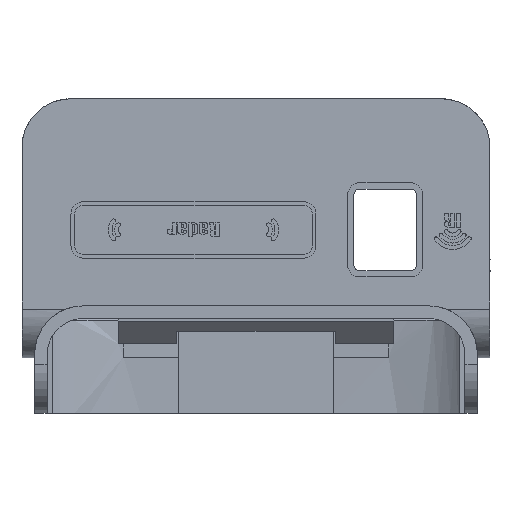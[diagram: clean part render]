
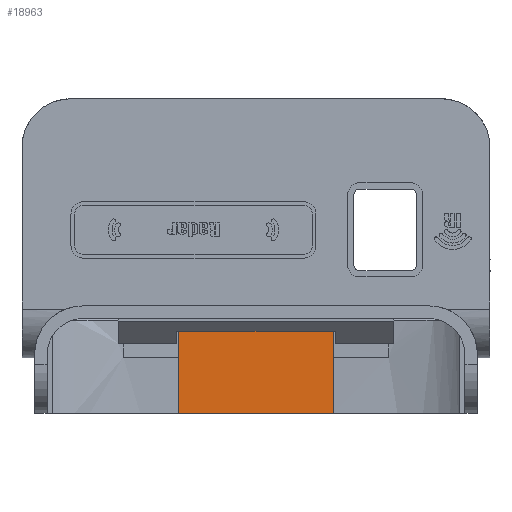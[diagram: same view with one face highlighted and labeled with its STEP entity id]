
A CAD part, front view. The second image highlights one B-rep face of the part: STEP entity #18963.
In plain terms, the highlighted planar face has unit normal (0, -1, 0).
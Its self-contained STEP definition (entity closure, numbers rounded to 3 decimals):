
#920 = VERTEX_POINT ( 'NONE', #7929 ) ;
#1413 = LINE ( 'NONE', #48825, #7524 ) ;
#2617 = DIRECTION ( 'NONE',  ( 0., -1., 0. ) ) ;
#2954 = PLANE ( 'NONE',  #13783 ) ;
#3085 = ORIENTED_EDGE ( 'NONE', *, *, #47616, .T. ) ;
#3429 = CARTESIAN_POINT ( 'NONE',  ( 13.289, 7.75, -43.867 ) ) ;
#3798 = LINE ( 'NONE', #46346, #19047 ) ;
#4460 = VECTOR ( 'NONE', #34466, 1000. ) ;
#4670 = EDGE_CURVE ( 'NONE', #920, #34748, #49920, .T. ) ;
#5004 = VERTEX_POINT ( 'NONE', #5173 ) ;
#5173 = CARTESIAN_POINT ( 'NONE',  ( 37.822, 7.75, 4.318 ) ) ;
#6594 = EDGE_CURVE ( 'NONE', #17804, #920, #39588, .T. ) ;
#6707 = ORIENTED_EDGE ( 'NONE', *, *, #38123, .F. ) ;
#7524 = VECTOR ( 'NONE', #29343, 1000. ) ;
#7530 = VERTEX_POINT ( 'NONE', #24766 ) ;
#7929 = CARTESIAN_POINT ( 'NONE',  ( 37.822, 7.75, -10.52 ) ) ;
#9451 = VECTOR ( 'NONE', #33824, 1000. ) ;
#11544 = ORIENTED_EDGE ( 'NONE', *, *, #6594, .T. ) ;
#11924 = LINE ( 'NONE', #48872, #9451 ) ;
#12325 = CARTESIAN_POINT ( 'NONE',  ( 13.289, 7.75, -1.6 ) ) ;
#12682 = EDGE_CURVE ( 'NONE', #17804, #28769, #3798, .T. ) ;
#12752 = VECTOR ( 'NONE', #49025, 1000. ) ;
#13783 = AXIS2_PLACEMENT_3D ( 'NONE', #30052, #2617, #49918 ) ;
#15306 = DIRECTION ( 'NONE',  ( 0., 0., 1. ) ) ;
#16101 = CARTESIAN_POINT ( 'NONE',  ( 13.289, 7.75, -10.52 ) ) ;
#16123 = ORIENTED_EDGE ( 'NONE', *, *, #39773, .F. ) ;
#17268 = FACE_OUTER_BOUND ( 'NONE', #28352, .T. ) ;
#17804 = VERTEX_POINT ( 'NONE', #16101 ) ;
#17851 = LINE ( 'NONE', #3429, #4460 ) ;
#18615 = CARTESIAN_POINT ( 'NONE',  ( 37.822, 7.75, -10.52 ) ) ;
#18781 = DIRECTION ( 'NONE',  ( 0., 0., 1. ) ) ;
#18963 = ADVANCED_FACE ( 'NONE', ( #17268 ), #2954, .T. ) ;
#19047 = VECTOR ( 'NONE', #15306, 1000. ) ;
#24766 = CARTESIAN_POINT ( 'NONE',  ( 13.289, 7.75, 4.318 ) ) ;
#28352 = EDGE_LOOP ( 'NONE', ( #31989, #3085, #6707, #16123, #37137, #11544 ) ) ;
#28769 = VERTEX_POINT ( 'NONE', #12325 ) ;
#29343 = DIRECTION ( 'NONE',  ( 0., 0., 1. ) ) ;
#29392 = CARTESIAN_POINT ( 'NONE',  ( 37.822, 7.75, -1.6 ) ) ;
#30052 = CARTESIAN_POINT ( 'NONE',  ( 37.822, 7.75, -10.52 ) ) ;
#31989 = ORIENTED_EDGE ( 'NONE', *, *, #4670, .T. ) ;
#33824 = DIRECTION ( 'NONE',  ( 1., 0., 0. ) ) ;
#34466 = DIRECTION ( 'NONE',  ( 0., 0., 1. ) ) ;
#34748 = VERTEX_POINT ( 'NONE', #29392 ) ;
#37137 = ORIENTED_EDGE ( 'NONE', *, *, #12682, .F. ) ;
#38123 = EDGE_CURVE ( 'NONE', #7530, #5004, #11924, .T. ) ;
#39588 = LINE ( 'NONE', #44723, #12752 ) ;
#39773 = EDGE_CURVE ( 'NONE', #28769, #7530, #17851, .T. ) ;
#44723 = CARTESIAN_POINT ( 'NONE',  ( 37.822, 7.75, -10.52 ) ) ;
#44896 = VECTOR ( 'NONE', #18781, 1000. ) ;
#46346 = CARTESIAN_POINT ( 'NONE',  ( 13.289, 7.75, -10.52 ) ) ;
#47616 = EDGE_CURVE ( 'NONE', #34748, #5004, #1413, .T. ) ;
#48825 = CARTESIAN_POINT ( 'NONE',  ( 37.822, 7.75, -43.867 ) ) ;
#48872 = CARTESIAN_POINT ( 'NONE',  ( 13.289, 7.75, 4.318 ) ) ;
#49025 = DIRECTION ( 'NONE',  ( 1., 0., 0. ) ) ;
#49918 = DIRECTION ( 'NONE',  ( 1., 0., 0. ) ) ;
#49920 = LINE ( 'NONE', #18615, #44896 ) ;
